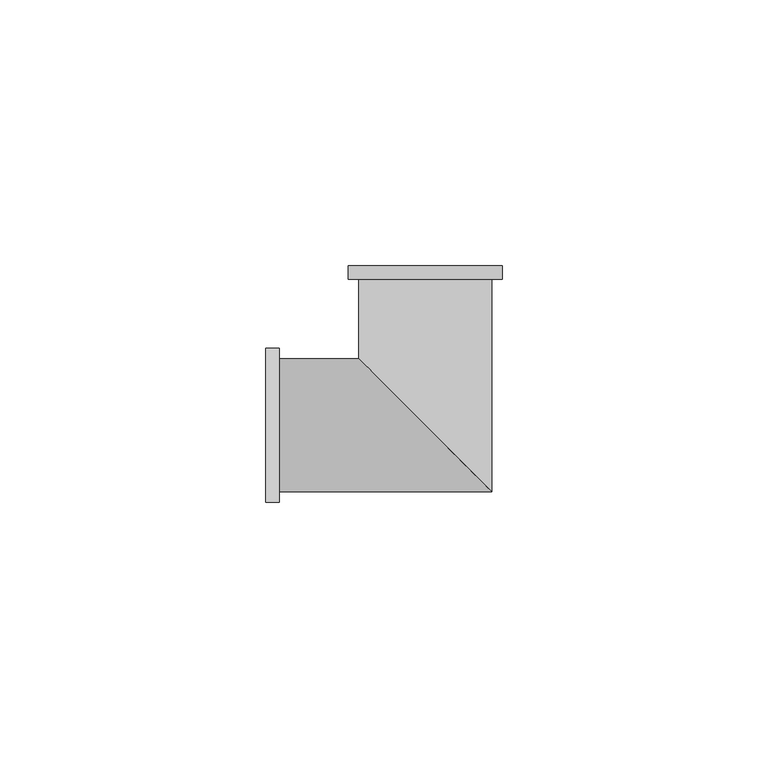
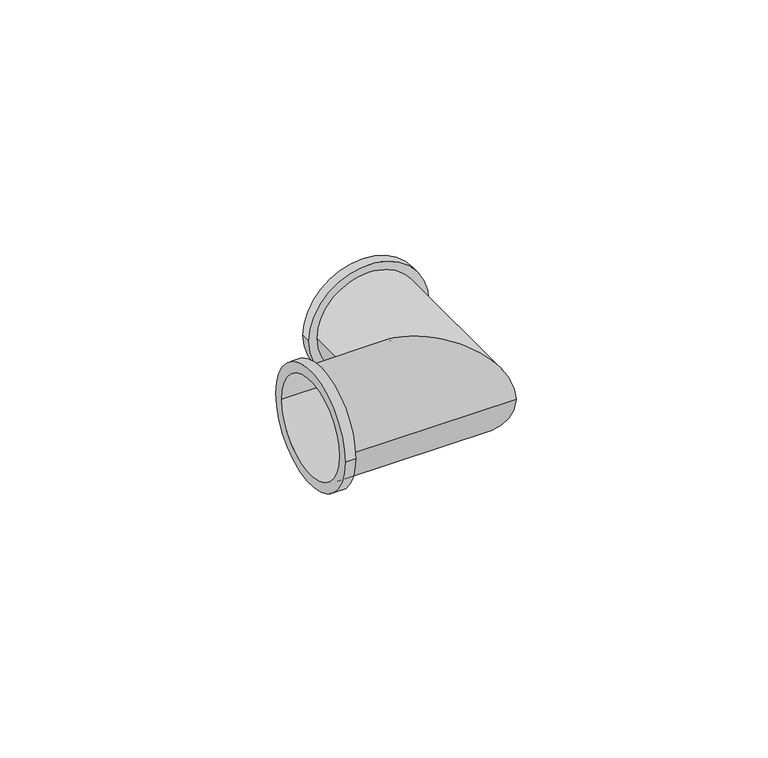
"""IFC4 building model written with IfcOpenShell, lengths in millimetres: pipe fitting geometry, БИР ПЕКС_КМП_Угольник ПЕКС : Угольник ПЕКС_КМП."""

from ifc_helpers import new_model, si_unit, frame, origin, place, context, project, spatial, polyline, circle_curve, ellipse_curve, source, transform, mapped, element, save
from ifc_brep_helpers import plane_surface, cylinder_surface, revolved_surface, advanced_brep


def pipe_fitting_084f18e1(model_context):
    return source(origin(), model_context, "Body", "AdvancedBrep", [
        advanced_brep(
        [(-30.0, -14.5, 0.0), (-30.0, 14.5, 0.0), (-30.0, -12.0, 0.0), (-30.0, 12.0, 0.0), (12.5, -12.5, 0.0), (-12.5, 12.5, 0.0), (-27.4507177, 12.5, 0.0), (-27.4507177, -12.5, 0.0), (-14.5, 30.0, 0.0), (14.5, 30.0, 0.0), (12.0, 30.0, 0.0), (-12.0, 30.0, 0.0), (12.5, 27.5, 0.0), (-12.5, 27.5, 0.0), (-27.4507177, -14.5, 0.0), (-27.4507177, 14.5, 0.0), (-14.5, 27.5, 0.0), (14.5, 27.5, 0.0), (-27.4507177, -12.0, 0.0), (12.0, -12.0, 0.0), (-12.0, 12.0, 0.0), (-27.4507177, 12.0, 0.0), (-12.0, 27.5, 0.0), (12.0, 27.5, 0.0)],
        [
            (0, 1, circle_curve(frame((-30.0, 0.0, 0.0), z_axis=(-1.0, 0.0, 0.0), x_axis=(0.0, 1.0, 0.0)), 14.5)),
            (1, 0, circle_curve(frame((-30.0, 0.0, 0.0), z_axis=(-1.0, 0.0, 0.0), x_axis=(0.0, 1.0, 0.0)), 14.5)),
            (2, 3, circle_curve(frame((-30.0, 0.0, 0.0), z_axis=(1.0, 0.0, 0.0), x_axis=(0.0, 1.0, 0.0)), 12.0)),
            (3, 2, circle_curve(frame((-30.0, 0.0, 0.0), z_axis=(1.0, 0.0, 0.0), x_axis=(0.0, 1.0, 0.0)), 12.0)),
            (4, 5, ellipse_curve(frame((0.0, 0.0, 0.0), z_axis=(-0.7071067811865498, -0.7071067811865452, 0.0), x_axis=(-0.7071067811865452, 0.7071067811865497, 0.0)), 17.6776695, 12.5)),
            (5, 6),
            (6, 7, circle_curve(frame((-27.4507177, 0.0, 0.0), z_axis=(1.0, 0.0, 0.0), x_axis=(0.0, 1.0, 0.0)), 12.5)),
            (7, 4),
            (5, 4, ellipse_curve(frame((0.0, 0.0, 0.0), z_axis=(-0.7071067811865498, -0.7071067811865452, 0.0), x_axis=(-0.7071067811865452, 0.7071067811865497, 0.0)), 17.6776695, 12.5)),
            (7, 6, circle_curve(frame((-27.4507177, 0.0, 0.0), z_axis=(1.0, 0.0, 0.0), x_axis=(0.0, 1.0, 0.0)), 12.5)),
            (8, 9, circle_curve(frame((0.0, 30.0, 0.0), z_axis=(0.0, 1.0, 0.0), x_axis=(1.0, 0.0, 0.0)), 14.5)),
            (9, 8, circle_curve(frame((0.0, 30.0, 0.0), z_axis=(0.0, 1.0, 0.0), x_axis=(1.0, 0.0, 0.0)), 14.5)),
            (10, 11, circle_curve(frame((0.0, 30.0, 0.0), z_axis=(0.0, -1.0, 0.0), x_axis=(-1.0, 0.0, 0.0)), 12.0)),
            (11, 10, circle_curve(frame((0.0, 30.0, 0.0), z_axis=(0.0, -1.0, 0.0), x_axis=(-1.0, 0.0, 0.0)), 12.0)),
            (4, 12),
            (12, 13, circle_curve(frame((0.0, 27.5, 0.0), z_axis=(0.0, -1.0, 0.0), x_axis=(-1.0, 0.0, 0.0)), 12.5)),
            (13, 5),
            (13, 12, circle_curve(frame((0.0, 27.5, 0.0), z_axis=(0.0, -1.0, 0.0), x_axis=(-1.0, 0.0, 0.0)), 12.5)),
            (14, 15, circle_curve(frame((-27.4507177, 0.0, 0.0), z_axis=(1.0, 0.0, 0.0), x_axis=(0.0, 1.0, 0.0)), 14.5)),
            (15, 14, circle_curve(frame((-27.4507177, 0.0, 0.0), z_axis=(1.0, 0.0, 0.0), x_axis=(0.0, 1.0, 0.0)), 14.5)),
            (14, 0),
            (1, 15),
            (16, 17, circle_curve(frame((0.0, 27.5, 0.0), z_axis=(0.0, -1.0, 0.0), x_axis=(1.0, 0.0, 0.0)), 14.5)),
            (17, 16, circle_curve(frame((0.0, 27.5, 0.0), z_axis=(0.0, -1.0, 0.0), x_axis=(1.0, 0.0, 0.0)), 14.5)),
            (16, 8),
            (9, 17),
            (2, 18),
            (18, 19),
            (19, 20, ellipse_curve(frame((0.0, 0.0, 0.0), z_axis=(0.7071067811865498, 0.7071067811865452, 0.0), x_axis=(0.7071067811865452, -0.7071067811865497, 0.0)), 16.9705627, 12.0)),
            (20, 21),
            (21, 3),
            (20, 19, ellipse_curve(frame((0.0, 0.0, 0.0), z_axis=(0.7071067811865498, 0.7071067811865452, 0.0), x_axis=(0.7071067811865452, -0.7071067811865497, 0.0)), 16.9705627, 12.0)),
            (11, 22),
            (22, 20),
            (19, 23),
            (23, 10),
        ],
        [
            plane_surface(frame((-30.0, 0.0, 0.0), z_axis=(-1.0, 0.0, 0.0), x_axis=(0.0, 0.0, 1.0))),
            cylinder_surface(frame((-30.0, 0.0, 0.0), z_axis=(-1.0, 0.0, 0.0), x_axis=(0.0, 1.0, 0.0)), 12.5),
            plane_surface(frame((0.0, 30.0, 0.0), z_axis=(0.0, 1.0, 0.0), x_axis=(0.0, 0.0, 1.0))),
            cylinder_surface(frame((0.0, 0.0, 0.0), z_axis=(0.0, -1.0, 0.0), x_axis=(-1.0, 0.0, 0.0)), 12.5),
            plane_surface(frame((-27.4507177, 14.5, 0.0), z_axis=(1.0, 0.0, 0.0), x_axis=(0.0, 0.0, 1.0))),
            cylinder_surface(frame((-30.0, 0.0, 0.0), z_axis=(1.0, 0.0, 0.0), x_axis=(0.0, 1.0, 0.0)), 14.5),
            plane_surface(frame((14.5, 27.5, 0.0), z_axis=(0.0, -1.0, 0.0), x_axis=(0.0, 0.0, 1.0))),
            cylinder_surface(frame((0.0, 30.0, 0.0), z_axis=(0.0, -1.0, 0.0), x_axis=(1.0, 0.0, 0.0)), 14.5),
            revolved_surface(polyline([(12.0, 12.0, 0.0), (-30.0, 12.0, 0.0)]), (-30.0, 0.0, 0.0), (1.0, 0.0, 0.0)),
            revolved_surface(polyline([(-12.0, 30.0, 0.0), (-12.0, -12.0, 0.0)]), (0.0, 0.0, 0.0), (0.0, 1.0, 0.0)),
        ],
        [
            (0, [[1, 2], [3, 4]]),
            (1, [[5, 6, 7, 8]]),
            (1, [[9, -8, 10, -6]]),
            (2, [[11, 12], [13, 14]]),
            (3, [[-5, 15, 16, 17]]),
            (3, [[-9, -17, 18, -15]]),
            (4, [[19, 20], [-7, -10]]),
            (5, [[-19, 21, -2, 22]]),
            (5, [[-20, -22, -1, -21]]),
            (6, [[23, 24], [-16, -18]]),
            (7, [[-23, 25, -12, 26]]),
            (7, [[-24, -26, -11, -25]]),
            (8, [[-3, 27, 28, 29, 30, 31]]),
            (8, [[-4, -31, -30, 32, -28, -27]]),
            (9, [[-14, 33, 34, -29, 35, 36]]),
            (9, [[-13, -36, -35, -32, -34, -33]]),
        ],
    ),
    ])


if __name__ == "__main__":
    model = new_model("IFC4")
    model_context = context("Model", 3, world=origin())
    ifc_project = project(units=[si_unit("LENGTHUNIT", "METRE", prefix="MILLI")], contexts=[model_context])
    site = spatial("IfcSite", under=ifc_project)
    building = spatial("IfcBuilding", under=site)
    placement = place(None, origin())
    pipe_fitting_shape = pipe_fitting_084f18e1(model_context)
    element("IfcPipeFitting", 1, ObjectType="БИР ПЕКС_КМП_Угольник ПЕКС : Угольник ПЕКС_КМП", at=placement, inside=building, context=model_context, shape_type="MappedRepresentation", body=[
        mapped(pipe_fitting_shape, transform((0.0, 0.0, 0.0), x_axis=(1.0, 0.0, 0.0), y_axis=(0.0, 1.0, 0.0), z_axis=(0.0, 0.0, 1.0))),
    ])
    save(model, "model.ifc")
